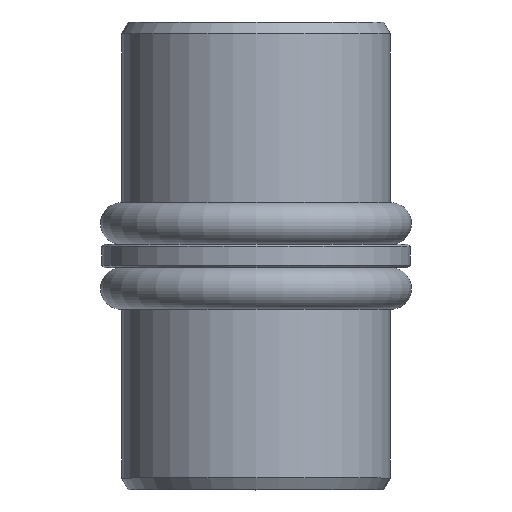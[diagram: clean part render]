
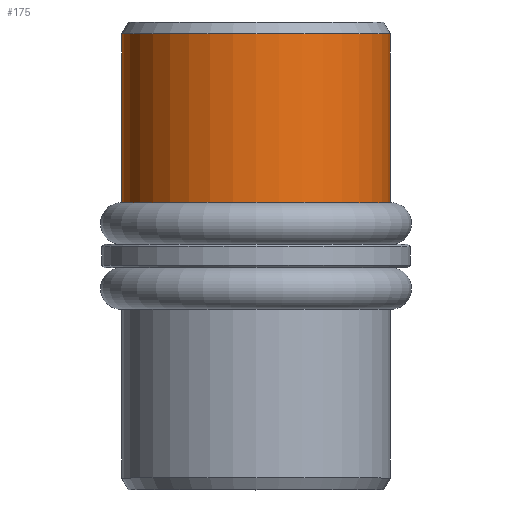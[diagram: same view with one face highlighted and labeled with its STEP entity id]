
A CAD part, top view. The second image highlights one B-rep face of the part: STEP entity #175.
In plain terms, the highlighted cylindrical face has radius 5.75 mm (diameter 11.5 mm), a full revolution.
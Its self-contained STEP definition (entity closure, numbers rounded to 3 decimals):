
#141=CARTESIAN_POINT('',(-5.75,2.28,0.0));
#142=VERTEX_POINT('',#141);
#143=CARTESIAN_POINT('',(0.0,2.28,0.0));
#144=DIRECTION('',(0.0,1.0,0.0));
#145=DIRECTION('',(-1.0,0.0,0.0));
#146=AXIS2_PLACEMENT_3D('',#143,#144,#145);
#147=CIRCLE('',#146,5.75);
#148=EDGE_CURVE('',#142,#142,#147,.T.);
#156=CARTESIAN_POINT('',(0.0,5.95,0.0));
#157=DIRECTION('',(0.0,1.0,0.0));
#158=DIRECTION('',(-1.0,0.0,0.0));
#159=AXIS2_PLACEMENT_3D('',#156,#157,#158);
#160=CYLINDRICAL_SURFACE('',#159,5.75);
#161=ORIENTED_EDGE('',*,*,#148,.T.);
#162=EDGE_LOOP('',(#161));
#163=FACE_OUTER_BOUND('',#162,.T.);
#164=CARTESIAN_POINT('',(-5.75,9.5,0.0));
#165=VERTEX_POINT('',#164);
#166=CARTESIAN_POINT('',(0.0,9.5,0.0));
#167=DIRECTION('',(0.0,1.0,0.0));
#168=DIRECTION('',(-1.0,0.0,0.0));
#169=AXIS2_PLACEMENT_3D('',#166,#167,#168);
#170=CIRCLE('',#169,5.75);
#171=EDGE_CURVE('',#165,#165,#170,.T.);
#172=ORIENTED_EDGE('',*,*,#171,.F.);
#173=EDGE_LOOP('',(#172));
#174=FACE_BOUND('',#173,.T.);
#175=ADVANCED_FACE('',(#163,#174),#160,.T.);
